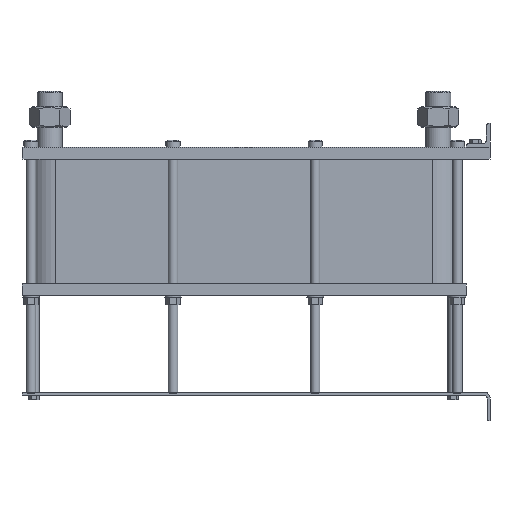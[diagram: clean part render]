
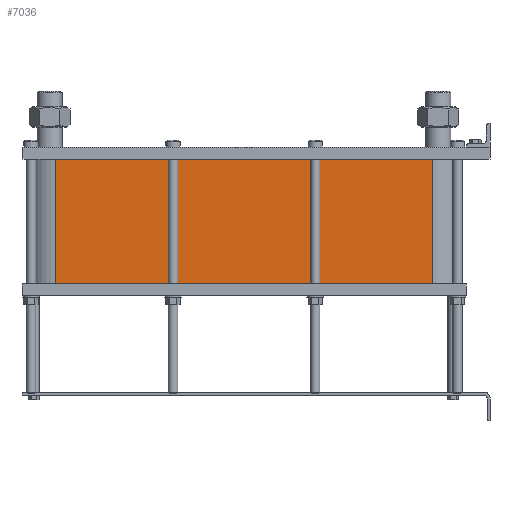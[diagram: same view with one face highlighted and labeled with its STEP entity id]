
A CAD part, left-side view. The second image highlights one B-rep face of the part: STEP entity #7036.
In plain terms, the highlighted planar face has unit normal (-1, 0, 0).
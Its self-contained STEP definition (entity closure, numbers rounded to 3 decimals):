
#999=LINE('',#15640,#1553);
#1031=LINE('',#15723,#1585);
#1032=LINE('',#15726,#1586);
#1033=LINE('',#15727,#1587);
#1553=VECTOR('',#9658,10.);
#1585=VECTOR('',#9736,10.);
#1586=VECTOR('',#9741,10.);
#1587=VECTOR('',#9742,10.);
#2117=FACE_OUTER_BOUND('',#2671,.T.);
#2671=EDGE_LOOP('',(#6246,#6247,#6248,#6249));
#3527=VERTEX_POINT('',#15634);
#3529=VERTEX_POINT('',#15638);
#3556=VERTEX_POINT('',#15720);
#3557=VERTEX_POINT('',#15722);
#4425=EDGE_CURVE('',#3529,#3527,#999,.T.);
#4466=EDGE_CURVE('',#3557,#3556,#1031,.T.);
#4468=EDGE_CURVE('',#3527,#3556,#1032,.T.);
#4469=EDGE_CURVE('',#3557,#3529,#1033,.T.);
#6246=ORIENTED_EDGE('',*,*,#4468,.F.);
#6247=ORIENTED_EDGE('',*,*,#4425,.F.);
#6248=ORIENTED_EDGE('',*,*,#4469,.F.);
#6249=ORIENTED_EDGE('',*,*,#4466,.T.);
#6608=PLANE('',#7812);
#7036=ADVANCED_FACE('',(#2117),#6608,.T.);
#7812=AXIS2_PLACEMENT_3D('',#15725,#9739,#9740);
#9658=DIRECTION('',(0.,0.,-1.));
#9736=DIRECTION('',(0.,0.,-1.));
#9739=DIRECTION('center_axis',(-1.,0.,0.));
#9740=DIRECTION('ref_axis',(0.,1.,0.));
#9741=DIRECTION('',(0.,1.,0.));
#9742=DIRECTION('',(0.,-1.,0.));
#15634=CARTESIAN_POINT('',(-72.,97.5,-210.8));
#15638=CARTESIAN_POINT('',(-72.,97.5,0.));
#15640=CARTESIAN_POINT('',(-72.,97.5,0.));
#15720=CARTESIAN_POINT('',(-72.,733.5,-210.8));
#15722=CARTESIAN_POINT('',(-72.,733.5,0.));
#15723=CARTESIAN_POINT('',(-72.,733.5,0.));
#15725=CARTESIAN_POINT('Origin',(-72.,97.5,0.));
#15726=CARTESIAN_POINT('',(-72.,256.5,-210.8));
#15727=CARTESIAN_POINT('',(-72.,733.5,0.));
